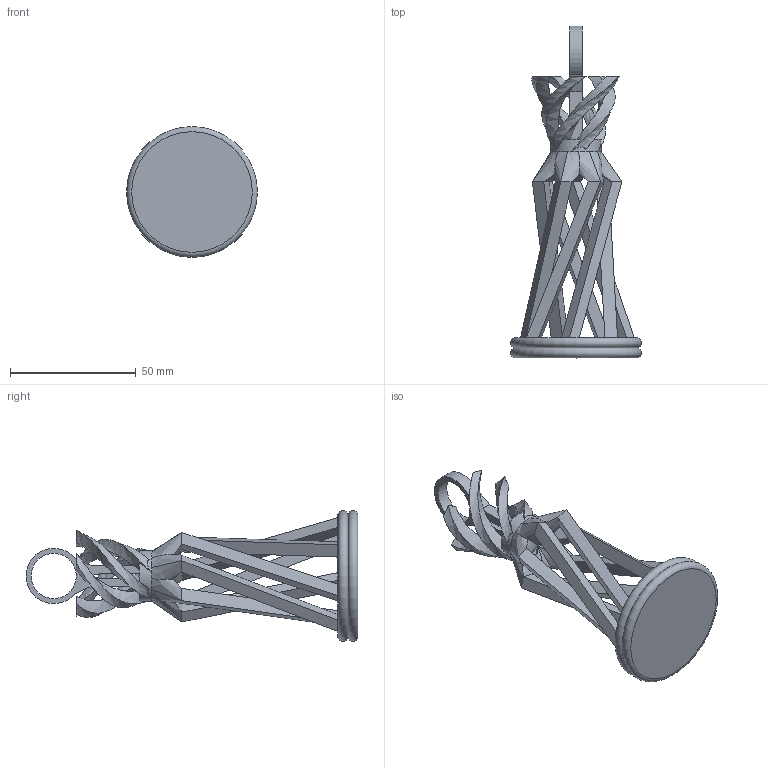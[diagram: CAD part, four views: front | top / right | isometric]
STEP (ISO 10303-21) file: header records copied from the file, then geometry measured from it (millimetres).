
FILE_DESCRIPTION(/* description */ (''),/* implementation_level */ '2;1');
FILE_NAME(/* name */ 'E:\Chess\King.stp',/* time_stamp */ '2021-01-30T10:34:59-05:00',/* author */ ('Owner'),/* organization */ (''),/* preprocessor_version */ 'ST-DEVELOPER v18',/* originating_system */ 'Autodesk Inventor 2020',/* authorisation */ '');
FILE_SCHEMA (('AUTOMOTIVE_DESIGN { 1 0 10303 214 3 1 1 }'));
Length unit declared in the file: millimetre
Products named in the file (1): King
Bounding box: 52 x 132 x 52 mm (x, y, z)
Volume: 38673.2 mm3; surface area: 21561.5 mm2
Topology: 1 solids, 1 shells, 99 faces, 268 edges, 172 vertices
Faces by surface type: bspline 48, plane 46, cylinder 3, torus 2
Full cylindrical faces by diameter (mm): 18 x1, 20 x1
Entity records: 4943 total; most frequent: CARTESIAN_POINT 2663, ORIENTED_EDGE 522, DIRECTION 333, EDGE_CURVE 261, LINE 165, VECTOR 165, VERTEX_POINT 159, EDGE_LOOP 110
